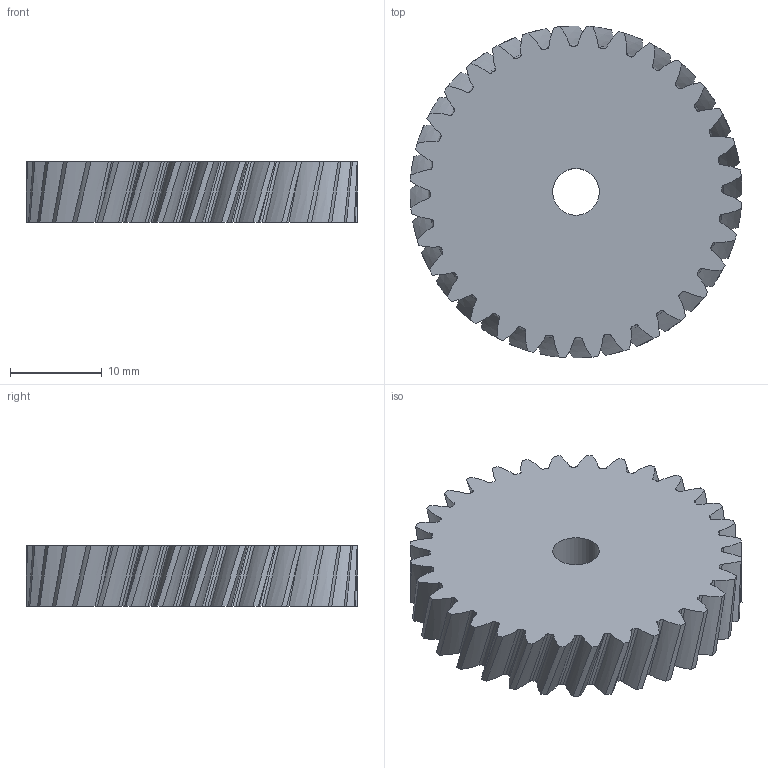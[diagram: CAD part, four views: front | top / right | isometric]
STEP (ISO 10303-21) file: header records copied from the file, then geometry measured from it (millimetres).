
FILE_DESCRIPTION(('Mechanical CAD reference from nasji.com'),'2;1');
FILE_NAME('NASJI.step','',(''),(''),'','NASJI distribution','');
FILE_SCHEMA(('AUTOMOTIVE_DESIGN { 1 0 10303 214 1 1 1 1 }'));
Length unit declared in the file: millimetre
Products named in the file (1): Open CASCADE STEP translator 7.8 224
Bounding box: 36.26 x 36.26 x 6.6 mm (x, y, z)
Volume: 5900.6 mm3; surface area: 3221.9 mm2
Topology: 1 solids, 1 shells, 195 faces, 579 edges, 386 vertices
Faces by surface type: bspline 192, plane 2, cylinder 1
Full cylindrical faces by diameter (mm): 5.1 x1
Entity records: 13622 total; most frequent: CARTESIAN_POINT 7003, ORIENTED_EDGE 1158, PCURVE 1158, DEFINITIONAL_REPRESENTATION 1158, B_SPLINE_CURVE_WITH_KNOTS 960, EDGE_CURVE 579, SURFACE_CURVE 578, VERTEX_POINT 386
